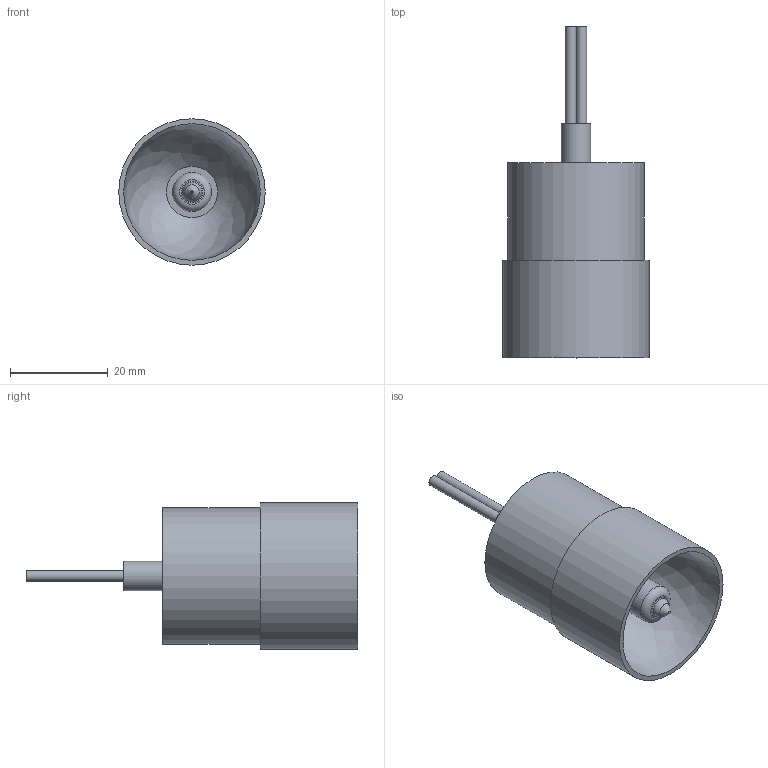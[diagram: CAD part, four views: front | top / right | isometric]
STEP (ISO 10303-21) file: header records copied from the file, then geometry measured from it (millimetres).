
FILE_DESCRIPTION(/* description */ (''),/* implementation_level */ '2;1');
FILE_NAME(/* name */ 'D:/ドキュメント/ACLT/その他/FTC_HP/HSH/3D/HSH-30_01.step',/* time_stamp */ '2018-05-31T12:37:38+09:00',/* author */ ('j.masuoka@mbe.nifty.com'),/* organization */ (''),/* preprocessor_version */ 'ST-DEVELOPER v17',/* originating_system */ 'Autodesk Translation Framework v7.1.0.215',/* authorisation */ '');
FILE_SCHEMA (('AUTOMOTIVE_DESIGN { 1 0 10303 214 3 1 1 }'));
Length unit declared in the file: millimetre
Products named in the file (11): HSH-30_01; HSH-30_01_1; 30-1 v2; 30-2B v8; SCB3-20 v2; SCB3-20 v2 (1); 30-6 v4; 30-5 v3; 30-5 v3 (1); 30-3 v4; 30-4 v7
Assembly tree (10 placements, depth 3):
  HSH-30_01
    HSH-30_01_1
      30-1 v2
      30-2B v8
      SCB3-20 v2
      SCB3-20 v2 (1)
      30-6 v4
      30-5 v3
      30-5 v3 (1)
      30-3 v4
      30-4 v7
Bounding box: 30 x 68 x 30 mm (x, y, z)
Volume: 19634 mm3; surface area: 9667.8 mm2
Topology: 9 solids, 9 shells, 91 faces, 210 edges, 146 vertices
Faces by surface type: plane 49, cylinder 22, cone 10, torus 4, sphere 4, bspline 2
Full cylindrical faces by diameter (mm): 2 x1, 2.2 x2, 3 x2, 3.332 x2, 3.4 x2, 4 x1, 5.5 x2, 6 x2, 6.5 x2, 8 x1, 10.488 x1, 15 x2, 28 x1, 30 x1
Entity records: 3480 total; most frequent: CARTESIAN_POINT 908, DIRECTION 550, ORIENTED_EDGE 412, AXIS2_PLACEMENT_3D 235, EDGE_CURVE 206, VERTEX_POINT 146, CIRCLE 125, EDGE_LOOP 110
